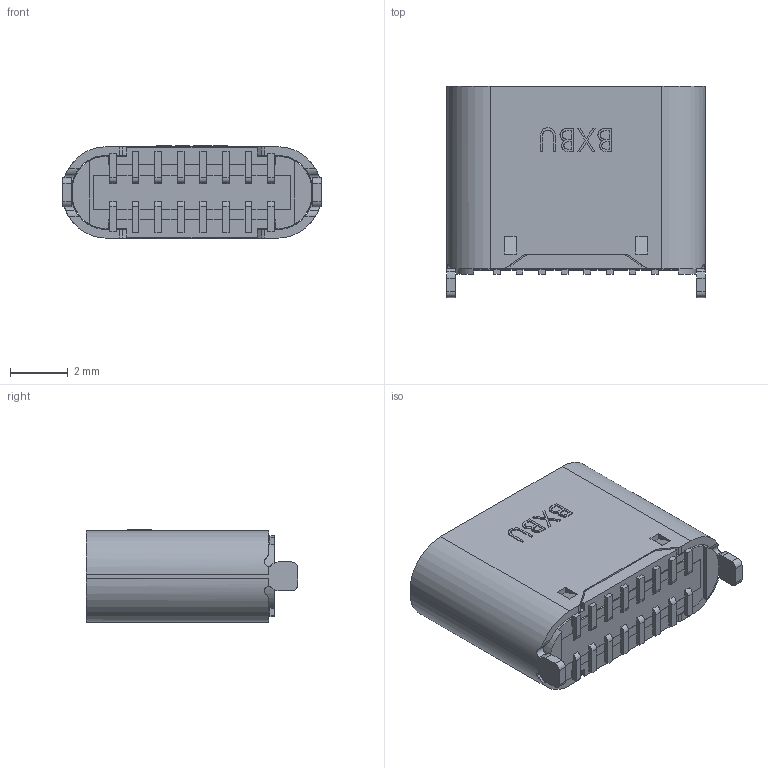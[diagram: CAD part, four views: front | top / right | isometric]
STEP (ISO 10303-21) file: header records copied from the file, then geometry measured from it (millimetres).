
FILE_DESCRIPTION (( 'STEP AP214' ), '1' );
FILE_NAME ('U5105-16PN6.5L.STEP', '2026-06-02T06:34:37', ( '' ), ( '' ), 'SwSTEP 2.0', 'SolidWorks 2024', '' );
FILE_SCHEMA (( 'AUTOMOTIVE_DESIGN' ));
Length unit declared in the file: millimetre
Products named in the file (1): U5105-16PN6.5L
Bounding box: 8.94 x 7.3 x 3.19 mm (x, y, z)
Volume: 93.1 mm3; surface area: 420.5 mm2
Topology: 1 solids, 1 shells, 537 faces, 1544 edges, 1010 vertices
Faces by surface type: plane 392, cylinder 108, bspline 29, cone 8
Entity records: 19008 total; most frequent: CARTESIAN_POINT 5037, ORIENTED_EDGE 3080, DIRECTION 2659, EDGE_CURVE 1540, VECTOR 1199, LINE 1199, VERTEX_POINT 1010, AXIS2_PLACEMENT_3D 730
